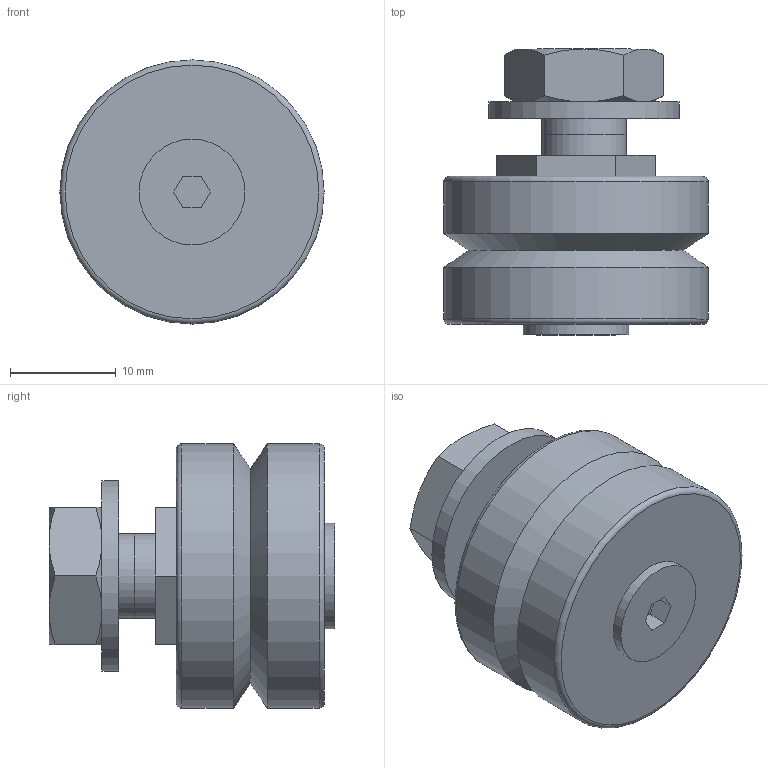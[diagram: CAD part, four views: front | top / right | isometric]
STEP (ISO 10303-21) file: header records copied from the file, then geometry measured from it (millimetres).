
FILE_DESCRIPTION(('STEP AP203'),'1');
FILE_NAME('//192.168.1.1/share/s-4 技術開発/s-4-4_CAD/s-4-4-6_見直し、確認済み/013 修正済み(済)/ジャーナル_TOP/NAS/NAS-25-E.step','2022-03-11T07:40:14',(' '),(' '),'Spatial InterOp 3D',' ',' ');
FILE_SCHEMA(('CONFIG_CONTROL_DESIGN'));
Length unit declared in the file: millimetre
Products named in the file (3): 1; 2; 3
Bounding box: 25 x 27.05 x 25 mm (x, y, z)
Volume: 8285.8 mm3; surface area: 3663.9 mm2
Topology: 3 solids, 3 shells, 59 faces, 129 edges, 80 vertices
Faces by surface type: plane 34, cone 14, cylinder 8, torus 2, sphere 1
Full cylindrical faces by diameter (mm): 6.75 x1, 8 x2, 8.5 x1, 10 x1, 18 x1, 25 x2
Entity records: 1740 total; most frequent: CARTESIAN_POINT 390, DIRECTION 250, ORIENTED_EDGE 228, EDGE_CURVE 114, AXIS2_PLACEMENT_3D 98, EDGE_LOOP 80, VERTEX_POINT 78, FACE_OUTER_BOUND 70
